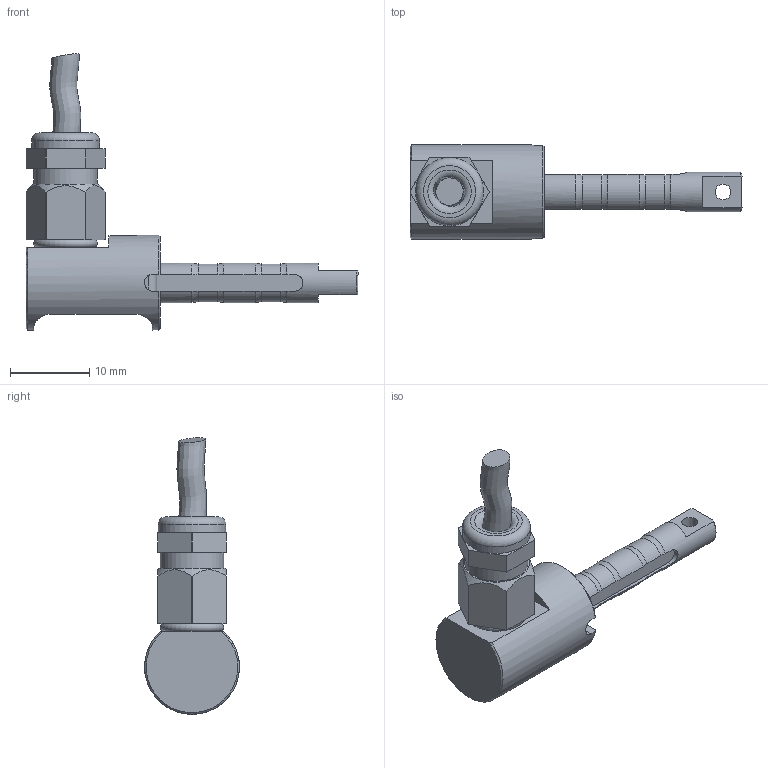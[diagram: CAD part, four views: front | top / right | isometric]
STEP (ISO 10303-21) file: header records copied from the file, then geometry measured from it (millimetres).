
FILE_DESCRIPTION(/* description */ ('Alibre Inc.'),/* implementation_level */ '2;1');
FILE_NAME(/* name */ 'export0',/* time_stamp */ '2016-12-07T14:51:57+01:00',/* author */ (''),/* organization */ (''),/* preprocessor_version */ 'ST-DEVELOPER v14',/* originating_system */ 'Alibre',/* authorisation */ '');
FILE_SCHEMA (('CONFIG_CONTROL_DESIGN'));
Length unit declared in the file: centimetre
Products named in the file (6): ID_1; ID_2; ID_3
Bounding box: 42 x 12 x 34.98 mm (x, y, z)
Volume: 2856.4 mm3; surface area: 2356 mm2
Topology: 4 solids, 4 shells, 112 faces, 304 edges, 204 vertices
Faces by surface type: plane 50, cylinder 42, torus 11, cone 8, bspline 1
Full cylindrical faces by diameter (mm): 2 x1, 3.5 x1, 4.917 x1, 5 x1, 6 x1, 8 x1, 8.6 x1, 12 x1
Entity records: 4587 total; most frequent: CARTESIAN_POINT 1537, ORIENTED_EDGE 566, DIRECTION 410, EDGE_CURVE 283, VERTEX_POINT 198, AXIS2_PLACEMENT_3D 165, FACE_BOUND 135, EDGE_LOOP 134
